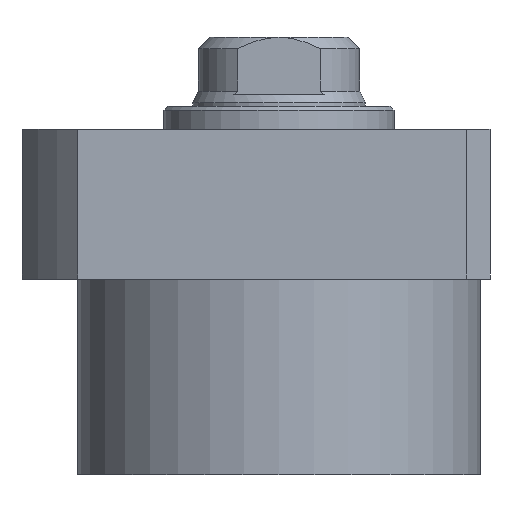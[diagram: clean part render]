
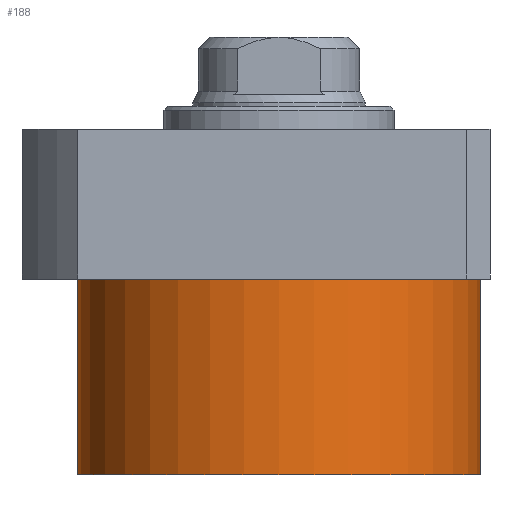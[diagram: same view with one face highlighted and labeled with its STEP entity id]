
A CAD part, front view. The second image highlights one B-rep face of the part: STEP entity #188.
In plain terms, the highlighted cylindrical face has radius 52.5 mm (diameter 105 mm), a partial arc.
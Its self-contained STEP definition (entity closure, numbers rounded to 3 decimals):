
#50 = DIRECTION ( 'NONE',  ( 0., 0., -1. ) ) ;
#62 = CARTESIAN_POINT ( 'NONE',  ( 0., 0., -19.5 ) ) ;
#79 = CARTESIAN_POINT ( 'NONE',  ( 52.5, 0., -70.5 ) ) ;
#81 = CARTESIAN_POINT ( 'NONE',  ( -52.5, 0., -70.5 ) ) ;
#188 = ADVANCED_FACE ( 'NONE', ( #789 ), #488, .T. ) ;
#220 = ORIENTED_EDGE ( 'NONE', *, *, #335, .F. ) ;
#225 = ORIENTED_EDGE ( 'NONE', *, *, #1145, .F. ) ;
#246 = CARTESIAN_POINT ( 'NONE',  ( -52.5, 0., -70.5 ) ) ;
#261 = DIRECTION ( 'NONE',  ( 0., 0., 1. ) ) ;
#335 = EDGE_CURVE ( 'NONE', #1892, #796, #1717, .T. ) ;
#340 = VERTEX_POINT ( 'NONE', #1775 ) ;
#356 = DIRECTION ( 'NONE',  ( 1., 0., 0. ) ) ;
#488 = CYLINDRICAL_SURFACE ( 'NONE', #921, 52.5 ) ;
#577 = CARTESIAN_POINT ( 'NONE',  ( 0., 0., -70.5 ) ) ;
#597 = DIRECTION ( 'NONE',  ( 0., 0., -1. ) ) ;
#636 = EDGE_CURVE ( 'NONE', #1255, #340, #1315, .T. ) ;
#713 = CARTESIAN_POINT ( 'NONE',  ( 52.5, 0., -19.5 ) ) ;
#789 = FACE_OUTER_BOUND ( 'NONE', #1113, .T. ) ;
#796 = VERTEX_POINT ( 'NONE', #246 ) ;
#854 = VECTOR ( 'NONE', #1876, 1000. ) ;
#866 = DIRECTION ( 'NONE',  ( -1., 0., 0. ) ) ;
#921 = AXIS2_PLACEMENT_3D ( 'NONE', #1002, #261, #1159 ) ;
#954 = ORIENTED_EDGE ( 'NONE', *, *, #1513, .T. ) ;
#1002 = CARTESIAN_POINT ( 'NONE',  ( 0., 0., -70.5 ) ) ;
#1070 = LINE ( 'NONE', #79, #854 ) ;
#1113 = EDGE_LOOP ( 'NONE', ( #225, #220, #954, #1216 ) ) ;
#1145 = EDGE_CURVE ( 'NONE', #796, #340, #1473, .T. ) ;
#1159 = DIRECTION ( 'NONE',  ( 1., 0., 0. ) ) ;
#1216 = ORIENTED_EDGE ( 'NONE', *, *, #636, .T. ) ;
#1255 = VERTEX_POINT ( 'NONE', #713 ) ;
#1315 = CIRCLE ( 'NONE', #1772, 52.5 ) ;
#1473 = LINE ( 'NONE', #81, #1721 ) ;
#1513 = EDGE_CURVE ( 'NONE', #1892, #1255, #1070, .T. ) ;
#1567 = DIRECTION ( 'NONE',  ( 0., 0., 1. ) ) ;
#1624 = AXIS2_PLACEMENT_3D ( 'NONE', #577, #597, #866 ) ;
#1648 = CARTESIAN_POINT ( 'NONE',  ( 52.5, 0., -70.5 ) ) ;
#1717 = CIRCLE ( 'NONE', #1624, 52.5 ) ;
#1721 = VECTOR ( 'NONE', #1567, 1000. ) ;
#1772 = AXIS2_PLACEMENT_3D ( 'NONE', #62, #50, #356 ) ;
#1775 = CARTESIAN_POINT ( 'NONE',  ( -52.5, 0., -19.5 ) ) ;
#1876 = DIRECTION ( 'NONE',  ( 0., 0., 1. ) ) ;
#1892 = VERTEX_POINT ( 'NONE', #1648 ) ;
